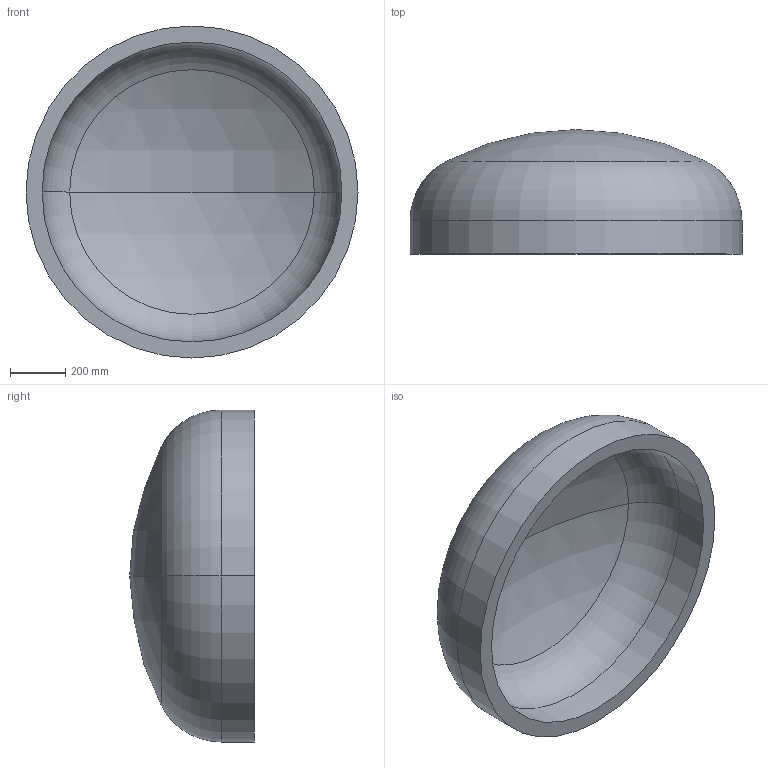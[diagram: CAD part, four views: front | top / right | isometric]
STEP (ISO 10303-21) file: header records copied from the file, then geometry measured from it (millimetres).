
FILE_DESCRIPTION (( 'STEP AP203' ), '1' );
FILE_NAME ('DIN 28013 Korbbogenform_-_Boden DIN 28013 - 1200 x 120 - I - s=58.step', '2016-07-01T09:32:05', ( '' ), ( '' ), 'SwSTEP 2.0', 'SolidWorks 2013', '' );
FILE_SCHEMA (( 'CONFIG_CONTROL_DESIGN' ));
Length unit declared in the file: millimetre
Products named in the file (1): DIN 28013 Korbbogenform_-_Boden DIN 28013 - 1200 x 120 - I - s=58
Bounding box: 1200 x 450.12 x 1200 mm (x, y, z)
Volume: 110361091.6 mm3; surface area: 4020686.1 mm2
Topology: 1 solids, 1 shells, 13 faces, 24 edges, 14 vertices
Faces by surface type: torus 4, cylinder 4, sphere 4, plane 1
Entity records: 407 total; most frequent: DIRECTION 72, CARTESIAN_POINT 52, ORIENTED_EDGE 48, AXIS2_PLACEMENT_3D 34, EDGE_CURVE 24, CIRCLE 20, VERTEX_POINT 14, EDGE_LOOP 14
